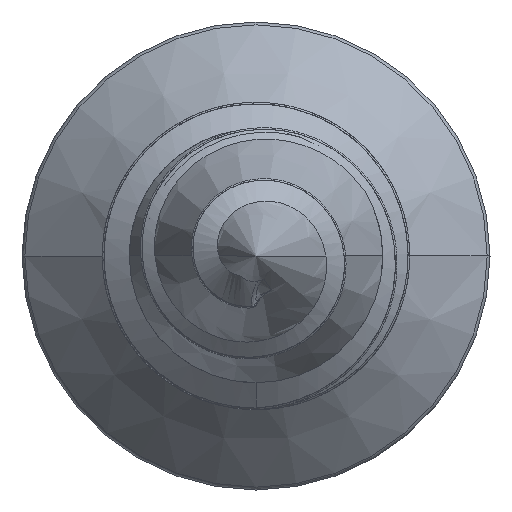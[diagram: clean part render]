
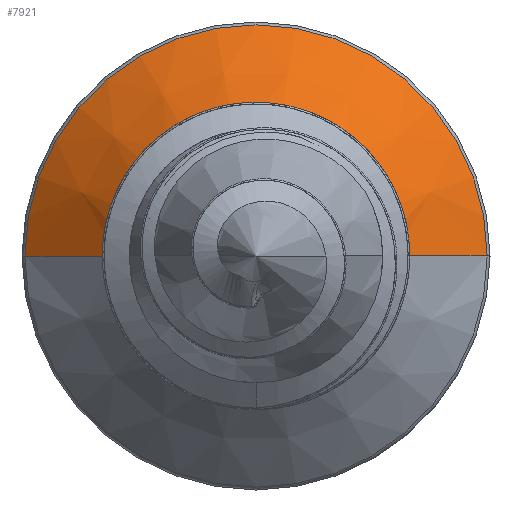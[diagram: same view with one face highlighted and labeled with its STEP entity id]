
A CAD part, front view. The second image highlights one B-rep face of the part: STEP entity #7921.
In plain terms, the highlighted conical face has half-angle 45 degrees and reference radius 6 mm.
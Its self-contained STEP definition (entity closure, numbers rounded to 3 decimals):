
#62 = CARTESIAN_POINT ( 'NONE',  ( -5.927, -0.573, 0. ) ) ;
#136 = DIRECTION ( 'NONE',  ( 0.707, 0.707, 0. ) ) ;
#508 = EDGE_CURVE ( 'NONE', #9617, #6111, #6936, .T. ) ;
#579 = AXIS2_PLACEMENT_3D ( 'NONE', #9797, #5936, #8290 ) ;
#768 = VERTEX_POINT ( 'NONE', #62 ) ;
#1134 = CIRCLE ( 'NONE', #4882, 5.927 ) ;
#1216 = ORIENTED_EDGE ( 'NONE', *, *, #508, .T. ) ;
#1754 = DIRECTION ( 'NONE',  ( 0., -1., 0. ) ) ;
#2278 = LINE ( 'NONE', #4630, #2917 ) ;
#2593 = ORIENTED_EDGE ( 'NONE', *, *, #6110, .T. ) ;
#2693 = ORIENTED_EDGE ( 'NONE', *, *, #6997, .F. ) ;
#2760 = ORIENTED_EDGE ( 'NONE', *, *, #4306, .T. ) ;
#2811 = DIRECTION ( 'NONE',  ( -1., 0., 0. ) ) ;
#2917 = VECTOR ( 'NONE', #136, 1000. ) ;
#4149 = AXIS2_PLACEMENT_3D ( 'NONE', #9796, #6706, #2811 ) ;
#4306 = EDGE_CURVE ( 'NONE', #6111, #5930, #2278, .T. ) ;
#4630 = CARTESIAN_POINT ( 'NONE',  ( 6., -0.5, 0. ) ) ;
#4882 = AXIS2_PLACEMENT_3D ( 'NONE', #8753, #1754, #7078 ) ;
#4972 = DIRECTION ( 'NONE',  ( -0.707, 0.707, 0. ) ) ;
#5619 = EDGE_LOOP ( 'NONE', ( #1216, #2760, #2593, #2693 ) ) ;
#5739 = LINE ( 'NONE', #9606, #9679 ) ;
#5781 = CARTESIAN_POINT ( 'NONE',  ( -3.573, -2.927, 0. ) ) ;
#5930 = VERTEX_POINT ( 'NONE', #9774 ) ;
#5936 = DIRECTION ( 'NONE',  ( 0., 1., 0. ) ) ;
#5956 = CONICAL_SURFACE ( 'NONE', #579, 6., 0.785 ) ;
#6110 = EDGE_CURVE ( 'NONE', #5930, #768, #1134, .T. ) ;
#6111 = VERTEX_POINT ( 'NONE', #7841 ) ;
#6706 = DIRECTION ( 'NONE',  ( 0., 1., 0. ) ) ;
#6707 = FACE_OUTER_BOUND ( 'NONE', #5619, .T. ) ;
#6936 = CIRCLE ( 'NONE', #4149, 3.573 ) ;
#6997 = EDGE_CURVE ( 'NONE', #9617, #768, #5739, .T. ) ;
#7078 = DIRECTION ( 'NONE',  ( 1., 0., 0. ) ) ;
#7841 = CARTESIAN_POINT ( 'NONE',  ( 3.573, -2.927, 0. ) ) ;
#7921 = ADVANCED_FACE ( 'NONE', ( #6707 ), #5956, .T. ) ;
#8290 = DIRECTION ( 'NONE',  ( -1., 0., 0. ) ) ;
#8753 = CARTESIAN_POINT ( 'NONE',  ( 0., -0.573, 0. ) ) ;
#9606 = CARTESIAN_POINT ( 'NONE',  ( -6., -0.5, 0. ) ) ;
#9617 = VERTEX_POINT ( 'NONE', #5781 ) ;
#9679 = VECTOR ( 'NONE', #4972, 1000. ) ;
#9774 = CARTESIAN_POINT ( 'NONE',  ( 5.927, -0.573, 0. ) ) ;
#9796 = CARTESIAN_POINT ( 'NONE',  ( 0., -2.927, 0. ) ) ;
#9797 = CARTESIAN_POINT ( 'NONE',  ( 0., -0.5, 0. ) ) ;
